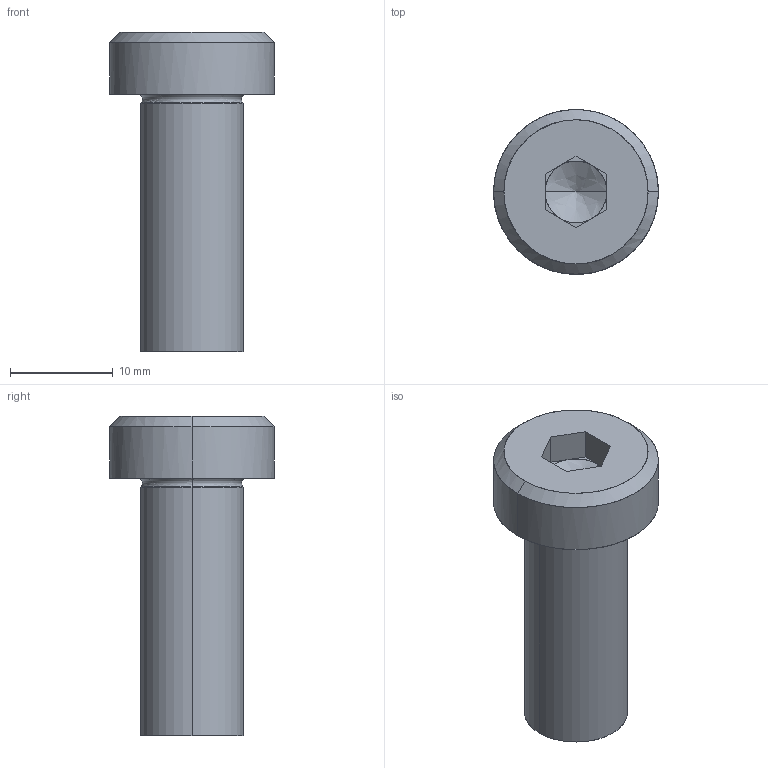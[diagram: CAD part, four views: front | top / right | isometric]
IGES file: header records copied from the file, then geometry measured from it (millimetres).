
Global section: file name: E:\UnigraphicsGraphicData\MISUMI_PRESS-PARTS\IGES\3d_sbtcn10-25_05129_r00.igs; native system: NX V5.0; preprocessor: UGS NX IGES V5.0; author: MISUMI; date: 20110105.162451; units: millimetre
Bounding box: 16 x 16 x 31 mm (x, y, z)
Surface area: 1844.1 mm2 (no closed solid volume)
Topology: 0 solids, 0 shells, 34 faces, 180 edges, 176 vertices
Faces by surface type: bspline 34
